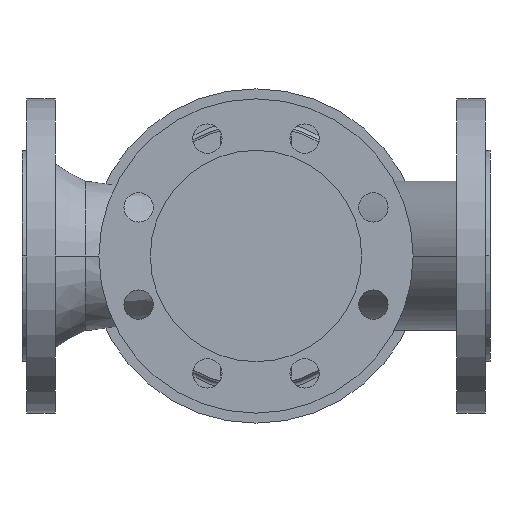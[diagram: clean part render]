
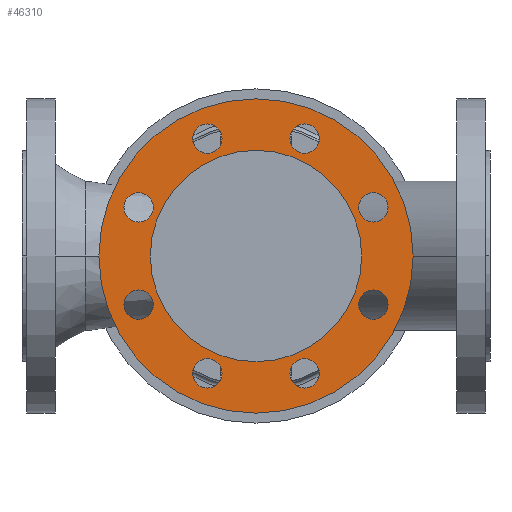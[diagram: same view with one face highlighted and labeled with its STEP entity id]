
A CAD part, front view. The second image highlights one B-rep face of the part: STEP entity #46310.
In plain terms, the highlighted planar face has unit normal (0, -1, 0).
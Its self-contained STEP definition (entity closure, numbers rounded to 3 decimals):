
#3260=CARTESIAN_POINT('',(254.,-146.5,0.));
#3270=VERTEX_POINT('',#3260);
#3320=CARTESIAN_POINT('',(175.,-146.5,0.));
#3330=DIRECTION('',(0.,-1.,0.));
#3340=DIRECTION('',(1.,0.,0.));
#3350=AXIS2_PLACEMENT_3D('',#3320,#3330,#3340);
#3360=CIRCLE('',#3350,79.);
#3370=CARTESIAN_POINT('',(96.,-146.5,0.));
#3380=VERTEX_POINT('',#3370);
#3390=EDGE_CURVE('',#3380,#3270,#3360,.T.);
#10440=CARTESIAN_POINT('',(57.5,-146.5,0.));
#10450=VERTEX_POINT('',#10440);
#10610=CARTESIAN_POINT('',(292.5,-146.5,0.));
#10620=VERTEX_POINT('',#10610);
#10650=CARTESIAN_POINT('',(175.,-146.5,0.));
#10660=DIRECTION('',(0.,1.,0.));
#10670=DIRECTION('',(1.,0.,0.));
#10680=AXIS2_PLACEMENT_3D('',#10650,#10660,#10670);
#10690=CIRCLE('',#10680,117.5);
#10700=EDGE_CURVE('',#10450,#10620,#10690,.T.);
#10860=CARTESIAN_POINT('',(273.769,-146.5,-36.355));
#10870=VERTEX_POINT('',#10860);
#11030=CARTESIAN_POINT('',(251.769,-146.5,-36.355));
#11040=VERTEX_POINT('',#11030);
#11070=CARTESIAN_POINT('',(262.769,-146.5,-36.355));
#11080=DIRECTION('',(0.,1.,0.));
#11090=DIRECTION('',(1.,0.,0.));
#11100=AXIS2_PLACEMENT_3D('',#11070,#11080,#11090);
#11110=CIRCLE('',#11100,11.);
#11120=EDGE_CURVE('',#11040,#10870,#11110,.T.);
#11280=CARTESIAN_POINT('',(273.769,-146.5,36.355));
#11290=VERTEX_POINT('',#11280);
#11320=CARTESIAN_POINT('',(262.769,-146.5,36.355));
#11330=DIRECTION('',(0.,1.,0.));
#11340=DIRECTION('',(1.,0.,0.));
#11350=AXIS2_PLACEMENT_3D('',#11320,#11330,#11340);
#11360=CIRCLE('',#11350,11.);
#11370=CARTESIAN_POINT('',(251.769,-146.5,36.355));
#11380=VERTEX_POINT('',#11370);
#11390=EDGE_CURVE('',#11290,#11380,#11360,.T.);
#11700=CARTESIAN_POINT('',(200.355,-146.5,-87.769));
#11710=VERTEX_POINT('',#11700);
#11870=CARTESIAN_POINT('',(222.355,-146.5,-87.769));
#11880=VERTEX_POINT('',#11870);
#11910=CARTESIAN_POINT('',(211.355,-146.5,-87.769));
#11920=DIRECTION('',(0.,1.,0.));
#11930=DIRECTION('',(1.,0.,0.));
#11940=AXIS2_PLACEMENT_3D('',#11910,#11920,#11930);
#11950=CIRCLE('',#11940,11.);
#11960=EDGE_CURVE('',#11880,#11710,#11950,.T.);
#12120=CARTESIAN_POINT('',(200.355,-146.5,87.769));
#12130=VERTEX_POINT('',#12120);
#12290=CARTESIAN_POINT('',(222.355,-146.5,87.769));
#12300=VERTEX_POINT('',#12290);
#12330=CARTESIAN_POINT('',(211.355,-146.5,87.769));
#12340=DIRECTION('',(0.,1.,0.));
#12350=DIRECTION('',(1.,0.,0.));
#12360=AXIS2_PLACEMENT_3D('',#12330,#12340,#12350);
#12370=CIRCLE('',#12360,11.);
#12380=EDGE_CURVE('',#12300,#12130,#12370,.T.);
#12540=CARTESIAN_POINT('',(127.645,-146.5,-87.769));
#12550=VERTEX_POINT('',#12540);
#12710=CARTESIAN_POINT('',(149.645,-146.5,-87.769));
#12720=VERTEX_POINT('',#12710);
#12750=CARTESIAN_POINT('',(138.645,-146.5,-87.769));
#12760=DIRECTION('',(0.,1.,0.));
#12770=DIRECTION('',(1.,0.,0.));
#12780=AXIS2_PLACEMENT_3D('',#12750,#12760,#12770);
#12790=CIRCLE('',#12780,11.);
#12800=EDGE_CURVE('',#12720,#12550,#12790,.T.);
#12960=CARTESIAN_POINT('',(127.645,-146.5,87.769));
#12970=VERTEX_POINT('',#12960);
#13130=CARTESIAN_POINT('',(149.645,-146.5,87.769));
#13140=VERTEX_POINT('',#13130);
#13170=CARTESIAN_POINT('',(138.645,-146.5,87.769));
#13180=DIRECTION('',(0.,1.,0.));
#13190=DIRECTION('',(1.,0.,0.));
#13200=AXIS2_PLACEMENT_3D('',#13170,#13180,#13190);
#13210=CIRCLE('',#13200,11.);
#13220=EDGE_CURVE('',#13140,#12970,#13210,.T.);
#13380=CARTESIAN_POINT('',(76.231,-146.5,-36.355));
#13390=VERTEX_POINT('',#13380);
#13550=CARTESIAN_POINT('',(98.231,-146.5,-36.355));
#13560=VERTEX_POINT('',#13550);
#13590=CARTESIAN_POINT('',(87.231,-146.5,-36.355));
#13600=DIRECTION('',(0.,1.,0.));
#13610=DIRECTION('',(1.,0.,0.));
#13620=AXIS2_PLACEMENT_3D('',#13590,#13600,#13610);
#13630=CIRCLE('',#13620,11.);
#13640=EDGE_CURVE('',#13560,#13390,#13630,.T.);
#13800=CARTESIAN_POINT('',(98.231,-146.5,36.355));
#13810=VERTEX_POINT('',#13800);
#13840=CARTESIAN_POINT('',(87.231,-146.5,36.355));
#13850=DIRECTION('',(0.,1.,0.));
#13860=DIRECTION('',(1.,0.,0.));
#13870=AXIS2_PLACEMENT_3D('',#13840,#13850,#13860);
#13880=CIRCLE('',#13870,11.);
#13890=CARTESIAN_POINT('',(76.231,-146.5,36.355));
#13900=VERTEX_POINT('',#13890);
#13910=EDGE_CURVE('',#13810,#13900,#13880,.T.);
#45760=CARTESIAN_POINT('',(175.,-146.5,0.));
#45770=DIRECTION('',(0.,1.,0.));
#45780=DIRECTION('',(0.,0.,1.));
#45790=AXIS2_PLACEMENT_3D('',#45760,#45770,#45780);
#45800=PLANE('',#45790);
#45810=EDGE_CURVE('',#13900,#13810,#13880,.T.);
#45820=ORIENTED_EDGE('',*,*,#45810,.T.);
#45830=ORIENTED_EDGE('',*,*,#13910,.T.);
#45840=EDGE_LOOP('',(#45830,#45820));
#45850=FACE_BOUND('',#45840,.T.);
#45860=EDGE_CURVE('',#13390,#13560,#13630,.T.);
#45870=ORIENTED_EDGE('',*,*,#45860,.T.);
#45880=ORIENTED_EDGE('',*,*,#13640,.T.);
#45890=EDGE_LOOP('',(#45880,#45870));
#45900=FACE_BOUND('',#45890,.T.);
#45910=EDGE_CURVE('',#12970,#13140,#13210,.T.);
#45920=ORIENTED_EDGE('',*,*,#45910,.T.);
#45930=ORIENTED_EDGE('',*,*,#13220,.T.);
#45940=EDGE_LOOP('',(#45930,#45920));
#45950=FACE_BOUND('',#45940,.T.);
#45960=EDGE_CURVE('',#12550,#12720,#12790,.T.);
#45970=ORIENTED_EDGE('',*,*,#45960,.T.);
#45980=ORIENTED_EDGE('',*,*,#12800,.T.);
#45990=EDGE_LOOP('',(#45980,#45970));
#46000=FACE_BOUND('',#45990,.T.);
#46010=EDGE_CURVE('',#12130,#12300,#12370,.T.);
#46020=ORIENTED_EDGE('',*,*,#46010,.T.);
#46030=ORIENTED_EDGE('',*,*,#12380,.T.);
#46040=EDGE_LOOP('',(#46030,#46020));
#46050=FACE_BOUND('',#46040,.T.);
#46060=EDGE_CURVE('',#11710,#11880,#11950,.T.);
#46070=ORIENTED_EDGE('',*,*,#46060,.T.);
#46080=ORIENTED_EDGE('',*,*,#11960,.T.);
#46090=EDGE_LOOP('',(#46080,#46070));
#46100=FACE_BOUND('',#46090,.T.);
#46110=EDGE_CURVE('',#11380,#11290,#11360,.T.);
#46120=ORIENTED_EDGE('',*,*,#46110,.T.);
#46130=ORIENTED_EDGE('',*,*,#11390,.T.);
#46140=EDGE_LOOP('',(#46130,#46120));
#46150=FACE_BOUND('',#46140,.T.);
#46160=EDGE_CURVE('',#10870,#11040,#11110,.T.);
#46170=ORIENTED_EDGE('',*,*,#46160,.T.);
#46180=ORIENTED_EDGE('',*,*,#11120,.T.);
#46190=EDGE_LOOP('',(#46180,#46170));
#46200=FACE_BOUND('',#46190,.T.);
#46210=EDGE_CURVE('',#10620,#10450,#10690,.T.);
#46220=ORIENTED_EDGE('',*,*,#46210,.F.);
#46230=ORIENTED_EDGE('',*,*,#10700,.F.);
#46240=EDGE_LOOP('',(#46230,#46220));
#46250=FACE_OUTER_BOUND('',#46240,.T.);
#46260=ORIENTED_EDGE('',*,*,#3390,.F.);
#46270=EDGE_CURVE('',#3270,#3380,#3360,.T.);
#46280=ORIENTED_EDGE('',*,*,#46270,.F.);
#46290=EDGE_LOOP('',(#46280,#46260));
#46300=FACE_BOUND('',#46290,.T.);
#46310=ADVANCED_FACE('',(#45850,#45900,#45950,#46000,#46050,#46100,
#46150,#46200,#46250,#46300),#45800,.F.);
